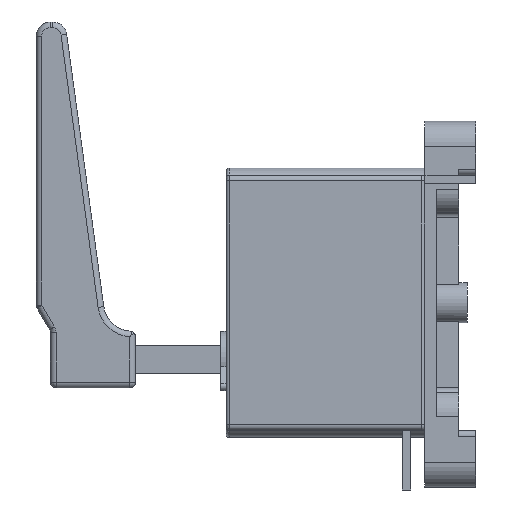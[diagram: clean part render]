
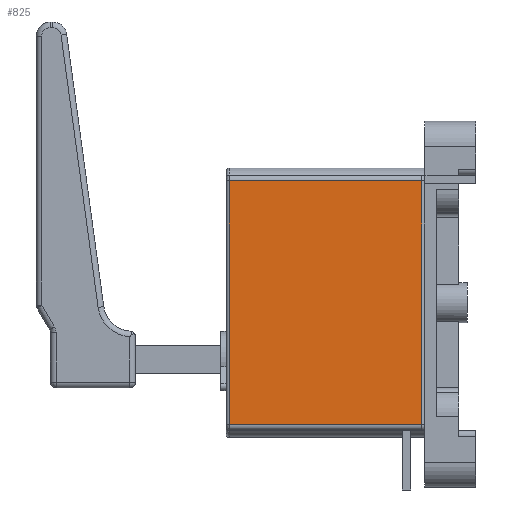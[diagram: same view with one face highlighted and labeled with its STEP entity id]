
A CAD part, left-side view. The second image highlights one B-rep face of the part: STEP entity #825.
In plain terms, the highlighted planar face has unit normal (-1, 0, 0).
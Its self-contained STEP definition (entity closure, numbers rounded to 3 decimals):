
#825=ADVANCED_FACE('',(#1149),#952,.F.);
#952=PLANE('',#5071);
#1149=FACE_OUTER_BOUND('',#1469,.T.);
#1469=EDGE_LOOP('',(#2640,#2641,#2642,#2643));
#2640=ORIENTED_EDGE('',*,*,#3818,.F.);
#2641=ORIENTED_EDGE('',*,*,#3804,.T.);
#2642=ORIENTED_EDGE('',*,*,#3819,.T.);
#2643=ORIENTED_EDGE('',*,*,#3485,.T.);
#2974=VERTEX_POINT('',#7110);
#2976=VERTEX_POINT('',#7115);
#3181=VERTEX_POINT('',#7872);
#3185=VERTEX_POINT('',#7904);
#3485=EDGE_CURVE('',#2974,#2976,#4015,.T.);
#3804=EDGE_CURVE('',#3181,#3185,#4186,.T.);
#3818=EDGE_CURVE('',#3181,#2976,#4193,.T.);
#3819=EDGE_CURVE('',#3185,#2974,#4194,.T.);
#4015=LINE('',#7116,#4390);
#4186=LINE('',#7905,#4561);
#4193=LINE('',#7957,#4568);
#4194=LINE('',#7959,#4569);
#4390=VECTOR('',#5707,1.);
#4561=VECTOR('',#6396,1.);
#4568=VECTOR('',#6421,1.);
#4569=VECTOR('',#6424,1.);
#5071=AXIS2_PLACEMENT_3D('',#7960,#6425,#6426);
#5707=DIRECTION('',(0.,0.,1.));
#6396=DIRECTION('',(0.,0.,-1.));
#6421=DIRECTION('',(0.,-1.,0.));
#6424=DIRECTION('',(0.,-1.,0.));
#6425=DIRECTION('',(1.,0.,0.));
#6426=DIRECTION('',(0.,0.,-1.));
#7110=CARTESIAN_POINT('',(-41.,1.,-43.));
#7115=CARTESIAN_POINT('',(-41.,1.,43.));
#7116=CARTESIAN_POINT('',(-41.,1.,-43.));
#7872=CARTESIAN_POINT('',(-41.,69.,43.));
#7904=CARTESIAN_POINT('',(-41.,69.,-43.));
#7905=CARTESIAN_POINT('',(-41.,69.,-43.));
#7957=CARTESIAN_POINT('',(-41.,35.,43.));
#7959=CARTESIAN_POINT('',(-41.,35.,-43.));
#7960=CARTESIAN_POINT('',(-41.,35.,-43.));
